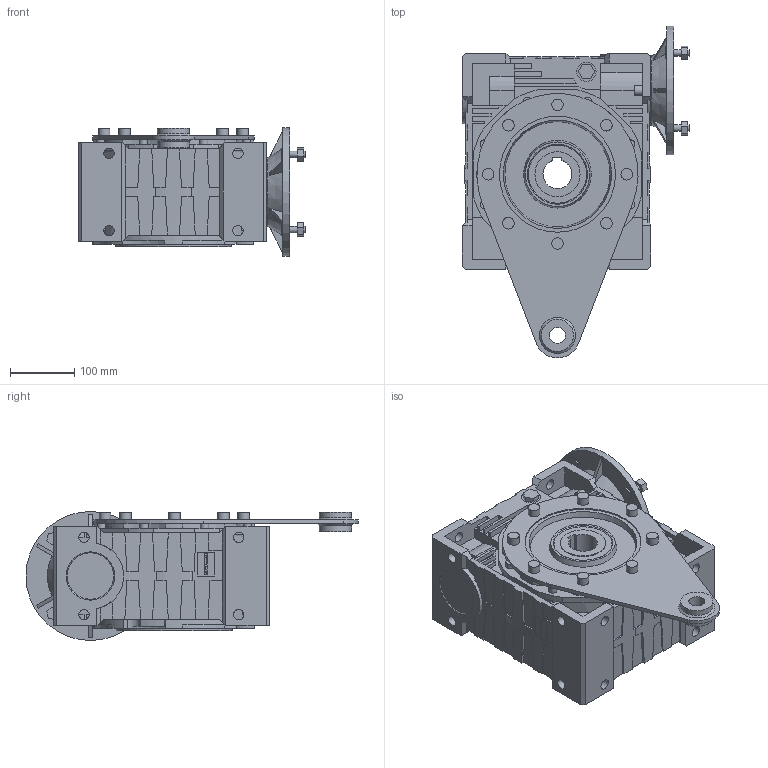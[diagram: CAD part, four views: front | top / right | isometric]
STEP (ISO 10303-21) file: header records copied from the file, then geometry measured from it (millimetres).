
FILE_DESCRIPTION(/* description */ ('STEP AP203'),/* implementation_level */ '2;1');
FILE_NAME(/* name */ 'NMRV1301484511100150NO---_---------------',/* time_stamp */ '2025-12-03T05:41:08+01:00',/* author */ ('License CC BY-ND 4.0'),/* organization */ ('CADENAS'),/* preprocessor_version */ 'ST-DEVELOPER v20',/* originating_system */ 'PARTsolutions',/* authorisation */ ' ');
FILE_SCHEMA (('CONFIG_CONTROL_DESIGN'));
Length unit declared in the file: millimetre
Products named in the file (6): NMRV1301484511100150NO---(---------------); Gear unit 130; 130-45 (170)alc-n; 130-250; VB 130-24 (24); 130-90 B5
Assembly tree (5 placements, depth 2):
  NMRV1301484511100150NO---(---------------)
    Gear unit 130
    130-45 (170)alc-n
    130-250
    VB 130-24 (24)
    130-90 B5
Bounding box: 352.5 x 515 x 200 mm (x, y, z)
Volume: 13787750.3 mm3; surface area: 883604.9 mm2
Topology: 5 solids, 5 shells, 860 faces, 2289 edges, 1514 vertices
Faces by surface type: plane 616, cylinder 189, cone 53, torus 2
Full cylindrical faces by diameter (mm): 3.675 x3, 10 x8, 10.106 x16, 13 x14, 16 x12, 18 x8, 25 x1, 26 x1, 30 x4, 49 x1, 50 x3, 61 x1, 68 x1, 69 x1, 70 x2, 80 x1, 107.5 x1, 130 x1, 180 x3, 200 x1
Entity records: 25896 total; most frequent: CARTESIAN_POINT 4706, DIRECTION 4295, ORIENTED_EDGE 4218, EDGE_CURVE 2109, LINE 1519, VECTOR 1519, VERTEX_POINT 1482, AXIS2_PLACEMENT_3D 1388
